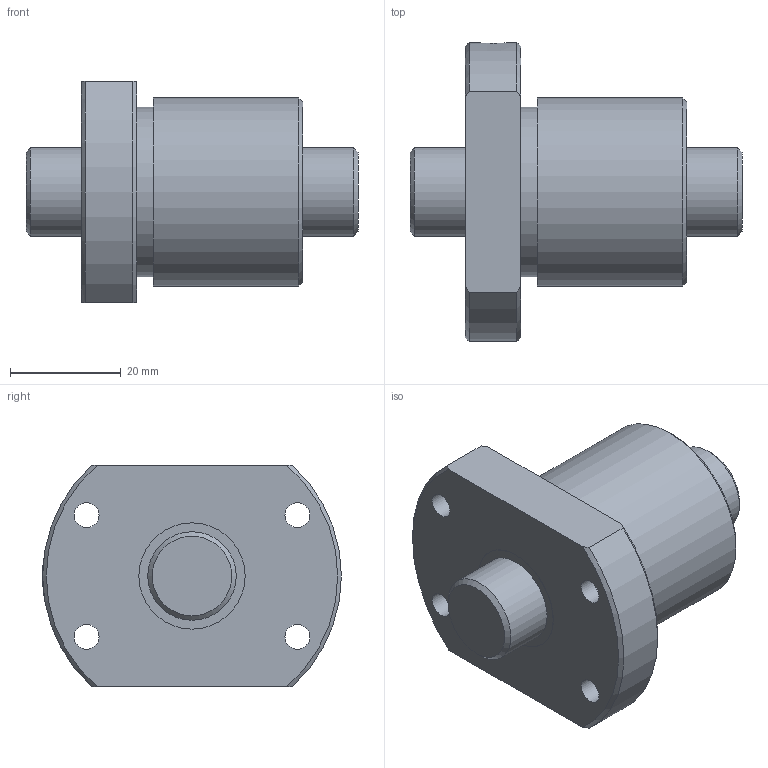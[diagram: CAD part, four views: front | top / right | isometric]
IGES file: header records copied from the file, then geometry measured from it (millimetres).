
Start section: Data from Parasolid IGES Translator 26.0.171, Copyright(c) 2006 Siemens PLM Software. All Rights Reserved.
Global section: file name: BTK1605V-2.6ZZ+60LC7T_000.igs; native system: By Siemens PLM Incorporated; preprocessor: XPlus GENERIC/IGES 26.0.171; author: Noname; organization: Noname; date: 20250116.075549; units: millimetre
Bounding box: 60 x 54 x 40 mm (x, y, z)
Surface area: 14580.6 mm2 (no closed solid volume)
Topology: 0 solids, 0 shells, 31 faces, 136 edges, 115 vertices
Faces by surface type: revolution 21, extrusion 10
